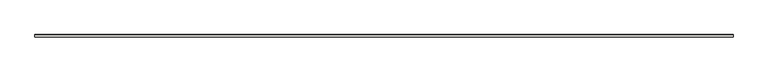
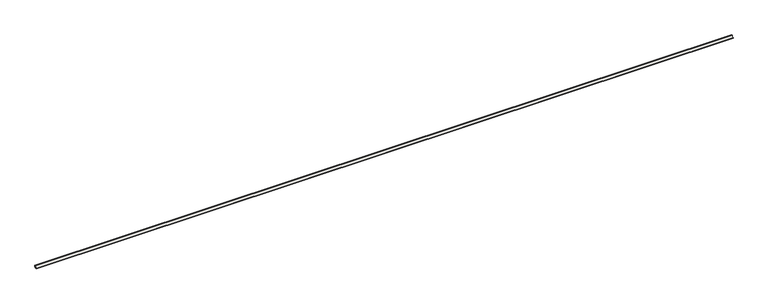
"""IFC4 building model written with IfcOpenShell, lengths in millimetres: slab geometry, ROSA GRES_188 : Pieza 188_Tresor_Java_Anti-Slip."""

from ifc_helpers import new_model, si_unit, point, frame, frame_2d, origin, place, context, project, spatial, polyline, circle_curve, trimmed, segment, composite_curve, outline, extrude, source, transform, mapped, element, save


def slab_48b8f559(model_context):
    return source(origin(), model_context, "Body", "SweptSolid", [
        extrude(outline(composite_curve([segment(polyline([(0.0, 8.7114978), (-8.7114978, 0.0), (-40.0, 0.0), (-40.0, 9.9734114)]), True, "CONTINUOUS"), segment(trimmed(circle_curve(frame_2d((-39.9955547, 39.9955547)), 30.0221435), [point((-40.0, 9.9734114))], [point((-9.9734114, 40.0))], True, "CARTESIAN"), True, "CONTINUOUS"), segment(polyline([(-9.9734114, 40.0), (0.0, 40.0), (0.0, 8.7114978)]), True, "CONTINUOUS")], self_intersect=False)), frame((0.0, 0.0, 0.0), z_axis=(1.0, 0.0, 0.0), x_axis=(0.0, 1.0, 0.0)), (0.0, 0.0, 1.0), 12059.9468229),
    ])


if __name__ == "__main__":
    model = new_model("IFC4")
    model_context = context("Model", 3, world=origin())
    ifc_project = project(units=[si_unit("LENGTHUNIT", "METRE", prefix="MILLI")], contexts=[model_context])
    site = spatial("IfcSite", under=ifc_project)
    building = spatial("IfcBuilding", under=site)
    placement = place(None, origin())
    slab_shape = slab_48b8f559(model_context)
    element("IfcSlab", 1, ObjectType="ROSA GRES_188 : Pieza 188_Tresor_Java_Anti-Slip", at=placement, inside=building, context=model_context, shape_type="MappedRepresentation", body=[
        mapped(slab_shape, transform((0.0, 0.0, 0.0), x_axis=(1.0, 0.0, 0.0), y_axis=(0.0, 1.0, 0.0), z_axis=(0.0, 0.0, 1.0))),
    ])
    save(model, "model.ifc")
